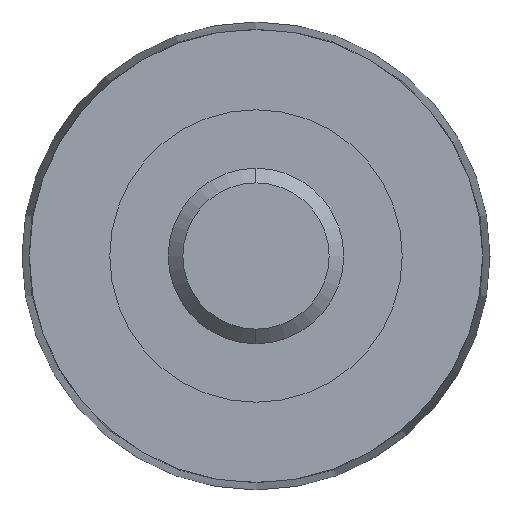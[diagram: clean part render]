
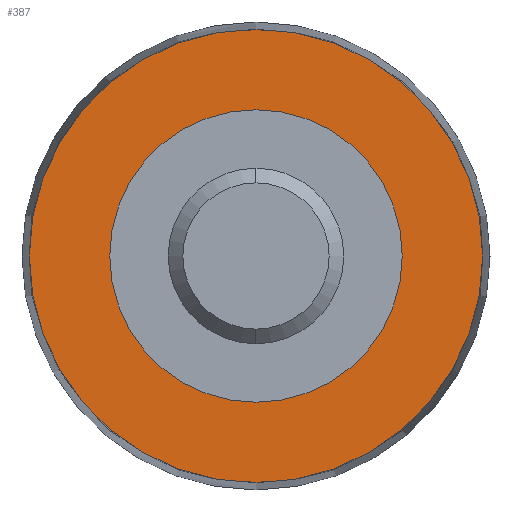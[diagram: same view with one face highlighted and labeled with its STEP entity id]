
A CAD part, left-side view. The second image highlights one B-rep face of the part: STEP entity #387.
In plain terms, the highlighted planar face has unit normal (-1, 0, 0).
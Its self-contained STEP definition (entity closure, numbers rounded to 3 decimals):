
#43 = AXIS2_PLACEMENT_3D ( 'NONE', #373, #372, #367 ) ;
#48 = CARTESIAN_POINT ( 'NONE',  ( -210., 0., 0. ) ) ;
#74 = DIRECTION ( 'NONE',  ( 0., 0., 1. ) ) ;
#85 = FACE_OUTER_BOUND ( 'NONE', #362, .T. ) ;
#94 = AXIS2_PLACEMENT_3D ( 'NONE', #179, #539, #74 ) ;
#120 = CARTESIAN_POINT ( 'NONE',  ( -210., 0., -15.5 ) ) ;
#153 = CARTESIAN_POINT ( 'NONE',  ( -210., 10., 0. ) ) ;
#155 = DIRECTION ( 'NONE',  ( -1., 0., 0. ) ) ;
#174 = CARTESIAN_POINT ( 'NONE',  ( -210., 0., 0. ) ) ;
#179 = CARTESIAN_POINT ( 'NONE',  ( -210., 0., 0. ) ) ;
#183 = VERTEX_POINT ( 'NONE', #319 ) ;
#197 = ORIENTED_EDGE ( 'NONE', *, *, #533, .F. ) ;
#199 = VERTEX_POINT ( 'NONE', #120 ) ;
#268 = EDGE_CURVE ( 'NONE', #459, #183, #549, .T. ) ;
#280 = AXIS2_PLACEMENT_3D ( 'NONE', #153, #516, #563 ) ;
#288 = EDGE_CURVE ( 'NONE', #405, #199, #501, .T. ) ;
#304 = ORIENTED_EDGE ( 'NONE', *, *, #288, .T. ) ;
#305 = CIRCLE ( 'NONE', #475, 10. ) ;
#319 = CARTESIAN_POINT ( 'NONE',  ( -210., 0., 10. ) ) ;
#320 = CARTESIAN_POINT ( 'NONE',  ( -210., 0., -10. ) ) ;
#326 = FACE_BOUND ( 'NONE', #622, .T. ) ;
#339 = AXIS2_PLACEMENT_3D ( 'NONE', #48, #155, #473 ) ;
#362 = EDGE_LOOP ( 'NONE', ( #485, #304 ) ) ;
#367 = DIRECTION ( 'NONE',  ( 0., 0., 1. ) ) ;
#372 = DIRECTION ( 'NONE',  ( -1., 0., 0. ) ) ;
#373 = CARTESIAN_POINT ( 'NONE',  ( -210., 0., 0. ) ) ;
#383 = EDGE_CURVE ( 'NONE', #199, #405, #507, .T. ) ;
#387 = ADVANCED_FACE ( 'NONE', ( #326, #85 ), #515, .F. ) ;
#402 = ORIENTED_EDGE ( 'NONE', *, *, #268, .F. ) ;
#405 = VERTEX_POINT ( 'NONE', #656 ) ;
#428 = DIRECTION ( 'NONE',  ( -1., 0., 0. ) ) ;
#429 = DIRECTION ( 'NONE',  ( 0., 0., 1. ) ) ;
#459 = VERTEX_POINT ( 'NONE', #320 ) ;
#473 = DIRECTION ( 'NONE',  ( 0., 0., 1. ) ) ;
#475 = AXIS2_PLACEMENT_3D ( 'NONE', #174, #428, #429 ) ;
#485 = ORIENTED_EDGE ( 'NONE', *, *, #383, .T. ) ;
#501 = CIRCLE ( 'NONE', #339, 15.5 ) ;
#507 = CIRCLE ( 'NONE', #43, 15.5 ) ;
#515 = PLANE ( 'NONE',  #280 ) ;
#516 = DIRECTION ( 'NONE',  ( 1., 0., 0. ) ) ;
#533 = EDGE_CURVE ( 'NONE', #183, #459, #305, .T. ) ;
#539 = DIRECTION ( 'NONE',  ( -1., 0., 0. ) ) ;
#549 = CIRCLE ( 'NONE', #94, 10. ) ;
#563 = DIRECTION ( 'NONE',  ( 0., 0., -1. ) ) ;
#622 = EDGE_LOOP ( 'NONE', ( #197, #402 ) ) ;
#656 = CARTESIAN_POINT ( 'NONE',  ( -210., 0., 15.5 ) ) ;
